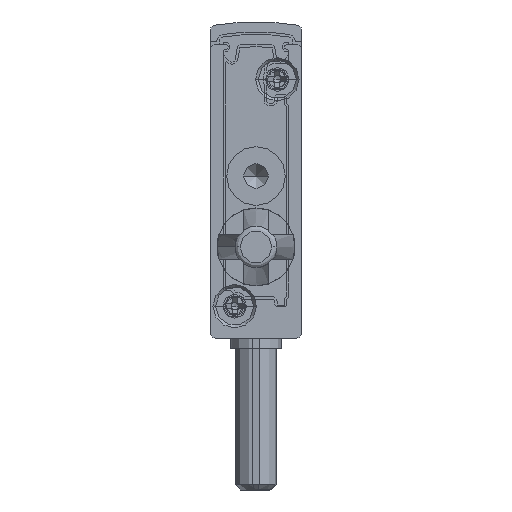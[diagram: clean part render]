
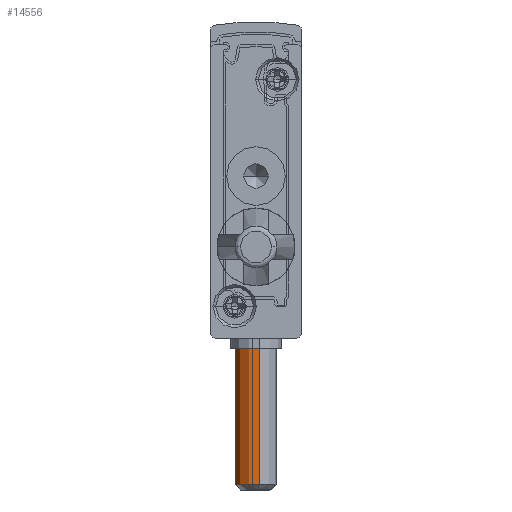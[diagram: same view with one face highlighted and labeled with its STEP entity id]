
A CAD part, front view. The second image highlights one B-rep face of the part: STEP entity #14556.
In plain terms, the highlighted cylindrical face has radius 2 mm (diameter 4 mm), a partial arc.
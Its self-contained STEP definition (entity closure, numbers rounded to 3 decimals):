
#1274 = ORIENTED_EDGE ( 'NONE', *, *, #14819, .T. ) ;
#1414 = ORIENTED_EDGE ( 'NONE', *, *, #11915, .F. ) ;
#2715 = CARTESIAN_POINT ( 'NONE',  ( -4.5, 2755.5, -14.5 ) ) ;
#2755 = CIRCLE ( 'NONE', #29653, 2. ) ;
#2823 = VECTOR ( 'NONE', #21347, 1000. ) ;
#3110 = FACE_OUTER_BOUND ( 'NONE', #4255, .T. ) ;
#3968 = CYLINDRICAL_SURFACE ( 'NONE', #29380, 2. ) ;
#4255 = EDGE_LOOP ( 'NONE', ( #1274, #4706, #12327, #1414 ) ) ;
#4706 = ORIENTED_EDGE ( 'NONE', *, *, #30240, .T. ) ;
#5192 = DIRECTION ( 'NONE',  ( 0., 0., 1. ) ) ;
#6177 = DIRECTION ( 'NONE',  ( 0.15, -0.989, 0. ) ) ;
#6304 = EDGE_CURVE ( 'NONE', #18201, #15853, #2755, .T. ) ;
#8175 = DIRECTION ( 'NONE',  ( 0.15, -0.989, 0. ) ) ;
#9604 = DIRECTION ( 'NONE',  ( 0., 0., 1. ) ) ;
#10237 = CARTESIAN_POINT ( 'NONE',  ( -4.199, 2753.523, -14.5 ) ) ;
#11595 = CARTESIAN_POINT ( 'NONE',  ( -4.5, 2755.5, -15. ) ) ;
#11915 = EDGE_CURVE ( 'NONE', #28574, #15853, #24374, .T. ) ;
#12327 = ORIENTED_EDGE ( 'NONE', *, *, #6304, .T. ) ;
#14371 = CARTESIAN_POINT ( 'NONE',  ( -4.801, 2757.477, -14.5 ) ) ;
#14556 = ADVANCED_FACE ( 'NONE', ( #3110 ), #3968, .T. ) ;
#14685 = DIRECTION ( 'NONE',  ( -0.15, 0.989, 0. ) ) ;
#14819 = EDGE_CURVE ( 'NONE', #28574, #22588, #31628, .T. ) ;
#15853 = VERTEX_POINT ( 'NONE', #27978 ) ;
#18201 = VERTEX_POINT ( 'NONE', #32809 ) ;
#21347 = DIRECTION ( 'NONE',  ( 0., 0., 1. ) ) ;
#22004 = CARTESIAN_POINT ( 'NONE',  ( -4.5, 2755.5, -1. ) ) ;
#22128 = DIRECTION ( 'NONE',  ( 0., 0., -1. ) ) ;
#22588 = VERTEX_POINT ( 'NONE', #10237 ) ;
#24374 = LINE ( 'NONE', #27549, #2823 ) ;
#26031 = LINE ( 'NONE', #28530, #26860 ) ;
#26860 = VECTOR ( 'NONE', #33718, 1000. ) ;
#27549 = CARTESIAN_POINT ( 'NONE',  ( -4.801, 2757.477, -15. ) ) ;
#27978 = CARTESIAN_POINT ( 'NONE',  ( -4.801, 2757.477, -1. ) ) ;
#28530 = CARTESIAN_POINT ( 'NONE',  ( -4.199, 2753.523, -15. ) ) ;
#28574 = VERTEX_POINT ( 'NONE', #14371 ) ;
#29380 = AXIS2_PLACEMENT_3D ( 'NONE', #11595, #9604, #14685 ) ;
#29653 = AXIS2_PLACEMENT_3D ( 'NONE', #22004, #22128, #6177 ) ;
#30240 = EDGE_CURVE ( 'NONE', #22588, #18201, #26031, .T. ) ;
#30551 = AXIS2_PLACEMENT_3D ( 'NONE', #2715, #5192, #8175 ) ;
#31628 = CIRCLE ( 'NONE', #30551, 2. ) ;
#32809 = CARTESIAN_POINT ( 'NONE',  ( -4.199, 2753.523, -1. ) ) ;
#33718 = DIRECTION ( 'NONE',  ( 0., 0., 1. ) ) ;
